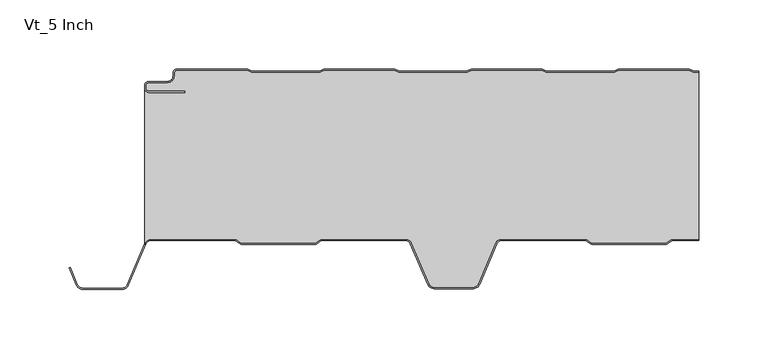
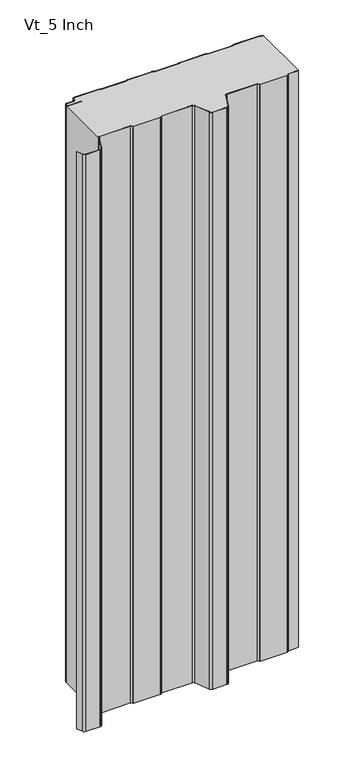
"""IFC4 building model written with IfcOpenShell, lengths in millimetres: plate geometry, AWIP_R18_CP_HR5_Vt_Roof Panel : Vt_5 Inch."""

from ifc_helpers import new_model, si_unit, point, frame, frame_2d, origin, origin_with_axes, place, context, project, spatial, polyline, circle_curve, trimmed, segment, composite_curve, outline, extrude, source, transform, mapped, element, save


def vt_5_inch_518f901f(model_context):
    return source(origin(), model_context, "Body", "SweptSolid", [
        extrude(outline(composite_curve([segment(polyline([(212.4037368, -1.5), (215.9042607, -1.5), (215.9042607, -2.3), (212.4037368, -2.3)]), True, "CONTINUOUS"), segment(trimmed(circle_curve(frame_2d((212.4037368, 1.0)), 3.3), [point((212.4037368, -2.3))], [point((211.0949824, -2.0293831))], False, "CARTESIAN"), True, "CONTINUOUS"), segment(polyline([(211.0949824, -2.0293831), (208.7048832, -0.9968123)]), True, "CONTINUOUS"), segment(trimmed(circle_curve(frame_2d((207.7530619, -3.2)), 2.4), [point((208.7048832, -0.9968123))], [point((207.7530619, -0.8))], True, "CARTESIAN"), True, "CONTINUOUS"), segment(polyline([(207.7530619, -0.8), (158.8384168, -0.8)]), True, "CONTINUOUS"), segment(trimmed(circle_curve(frame_2d((158.8384168, -3.2)), 2.4), [point((158.8384168, -0.8))], [point((157.8865954, -0.9968123))], True, "CARTESIAN"), True, "CONTINUOUS"), segment(polyline([(157.8865954, -0.9968123), (155.4964962, -2.0293831)]), True, "CONTINUOUS"), segment(trimmed(circle_curve(frame_2d((154.1877419, 1.0)), 3.3), [point((155.4964962, -2.0293831))], [point((154.1877419, -2.3))], False, "CARTESIAN"), True, "CONTINUOUS"), segment(polyline([(154.1877419, -2.3), (105.8037368, -2.3)]), True, "CONTINUOUS"), segment(trimmed(circle_curve(frame_2d((105.8037368, 1.0)), 3.3), [point((105.8037368, -2.3))], [point((104.4949824, -2.0293831))], False, "CARTESIAN"), True, "CONTINUOUS"), segment(polyline([(104.4949824, -2.0293831), (102.1048832, -0.9968123)]), True, "CONTINUOUS"), segment(trimmed(circle_curve(frame_2d((101.1530619, -3.2)), 2.4), [point((102.1048832, -0.9968123))], [point((101.1530619, -0.8))], True, "CARTESIAN"), True, "CONTINUOUS"), segment(polyline([(101.1530619, -0.8), (52.2384168, -0.8)]), True, "CONTINUOUS"), segment(trimmed(circle_curve(frame_2d((52.2384168, -3.2)), 2.4), [point((52.2384168, -0.8))], [point((51.2865954, -0.9968123))], True, "CARTESIAN"), True, "CONTINUOUS"), segment(polyline([(51.2865954, -0.9968123), (48.8964962, -2.0293831)]), True, "CONTINUOUS"), segment(trimmed(circle_curve(frame_2d((47.5877419, 1.0)), 3.3), [point((48.8964962, -2.0293831))], [point((47.5877419, -2.3))], False, "CARTESIAN"), True, "CONTINUOUS"), segment(polyline([(47.5877419, -2.3), (-0.7962632, -2.3)]), True, "CONTINUOUS"), segment(trimmed(circle_curve(frame_2d((-0.7962632, 1.0)), 3.3), [point((-0.7962632, -2.3))], [point((-2.1050176, -2.0293831))], False, "CARTESIAN"), True, "CONTINUOUS"), segment(polyline([(-2.1050176, -2.0293831), (-4.4951168, -0.9968123)]), True, "CONTINUOUS"), segment(trimmed(circle_curve(frame_2d((-5.4469381, -3.2)), 2.4), [point((-4.4951168, -0.9968123))], [point((-5.4469381, -0.8))], True, "CARTESIAN"), True, "CONTINUOUS"), segment(polyline([(-5.4469381, -0.8), (-54.3615832, -0.8)]), True, "CONTINUOUS"), segment(trimmed(circle_curve(frame_2d((-54.3615832, -3.2)), 2.4), [point((-54.3615832, -0.8))], [point((-55.3134046, -0.9968123))], True, "CARTESIAN"), True, "CONTINUOUS"), segment(polyline([(-55.3134046, -0.9968123), (-57.7035038, -2.0293831)]), True, "CONTINUOUS"), segment(trimmed(circle_curve(frame_2d((-59.0122581, 1.0)), 3.3), [point((-57.7035038, -2.0293831))], [point((-59.0122581, -2.3))], False, "CARTESIAN"), True, "CONTINUOUS"), segment(polyline([(-59.0122581, -2.3), (-107.3962632, -2.3)]), True, "CONTINUOUS"), segment(trimmed(circle_curve(frame_2d((-107.3962632, 1.0)), 3.3), [point((-107.3962632, -2.3))], [point((-108.7050176, -2.0293831))], False, "CARTESIAN"), True, "CONTINUOUS"), segment(polyline([(-108.7050176, -2.0293831), (-111.0951168, -0.9968123)]), True, "CONTINUOUS"), segment(trimmed(circle_curve(frame_2d((-112.0469381, -3.2)), 2.4), [point((-111.0951168, -0.9968123))], [point((-112.0469381, -0.8))], True, "CARTESIAN"), True, "CONTINUOUS"), segment(polyline([(-112.0469381, -0.8), (-161.8042607, -0.8)]), True, "CONTINUOUS"), segment(trimmed(circle_curve(frame_2d((-161.8042607, -3.0)), 2.2), [point((-161.8042607, -0.8))], [point((-164.0042607, -3.0))], True, "CARTESIAN"), True, "CONTINUOUS"), segment(polyline([(-164.0042607, -3.0), (-164.0042607, -5.0)]), True, "CONTINUOUS"), segment(trimmed(circle_curve(frame_2d((-168.8042607, -5.0)), 4.8), [point((-164.0042607, -5.0))], [point((-168.8042607, -9.8))], False, "CARTESIAN"), True, "CONTINUOUS"), segment(polyline([(-168.8042607, -9.8), (-182.3200708, -9.8)]), True, "CONTINUOUS"), segment(trimmed(circle_curve(frame_2d((-182.3200708, -12.0)), 2.2), [point((-182.3200708, -9.8))], [point((-184.5200708, -12.0))], True, "CARTESIAN"), True, "CONTINUOUS"), segment(polyline([(-184.5200708, -12.0), (-184.5200708, -14.0)]), True, "CONTINUOUS"), segment(trimmed(circle_curve(frame_2d((-182.3200708, -14.0)), 2.2), [point((-184.5200708, -14.0))], [point((-182.3200708, -16.2))], True, "CARTESIAN"), True, "CONTINUOUS"), segment(polyline([(-182.3200708, -16.2), (-156.3790289, -16.2), (-156.3790289, -17.0), (-182.3200708, -17.0)]), True, "CONTINUOUS"), segment(trimmed(circle_curve(frame_2d((-182.3200708, -14.0)), 3.0), [point((-182.3200708, -17.0))], [point((-185.3200708, -14.0))], False, "CARTESIAN"), True, "CONTINUOUS"), segment(polyline([(-185.3200708, -14.0), (-185.3200708, -12.0)]), True, "CONTINUOUS"), segment(trimmed(circle_curve(frame_2d((-182.3200708, -12.0)), 3.0), [point((-185.3200708, -12.0))], [point((-182.3200708, -9.0))], False, "CARTESIAN"), True, "CONTINUOUS"), segment(polyline([(-182.3200708, -9.0), (-168.8042607, -9.0)]), True, "CONTINUOUS"), segment(trimmed(circle_curve(frame_2d((-168.8042607, -5.0)), 4.0), [point((-168.8042607, -9.0))], [point((-164.8042607, -5.0))], True, "CARTESIAN"), True, "CONTINUOUS"), segment(polyline([(-164.8042607, -5.0), (-164.8042607, -3.0)]), True, "CONTINUOUS"), segment(trimmed(circle_curve(frame_2d((-161.8042607, -3.0)), 3.0), [point((-164.8042607, -3.0))], [point((-161.8042607, 0.0))], False, "CARTESIAN"), True, "CONTINUOUS"), segment(polyline([(-161.8042607, 0.0), (-112.0469381, 0.0)]), True, "CONTINUOUS"), segment(trimmed(circle_curve(frame_2d((-112.0469381, -3.2)), 3.2), [point((-112.0469381, 0.0))], [point((-110.777843, -0.2624164))], False, "CARTESIAN"), True, "CONTINUOUS"), segment(polyline([(-110.777843, -0.2624164), (-108.3877438, -1.2949872)]), True, "CONTINUOUS"), segment(trimmed(circle_curve(frame_2d((-107.3962632, 1.0)), 2.5), [point((-108.3877438, -1.2949872))], [point((-107.3962632, -1.5))], True, "CARTESIAN"), True, "CONTINUOUS"), segment(polyline([(-107.3962632, -1.5), (-59.0122581, -1.5)]), True, "CONTINUOUS"), segment(trimmed(circle_curve(frame_2d((-59.0122581, 1.0)), 2.5), [point((-59.0122581, -1.5))], [point((-58.0207775, -1.2949872))], True, "CARTESIAN"), True, "CONTINUOUS"), segment(polyline([(-58.0207775, -1.2949872), (-55.6306783, -0.2624164)]), True, "CONTINUOUS"), segment(trimmed(circle_curve(frame_2d((-54.3615832, -3.2)), 3.2), [point((-55.6306783, -0.2624164))], [point((-54.3615832, 0.0))], False, "CARTESIAN"), True, "CONTINUOUS"), segment(polyline([(-54.3615832, 0.0), (-5.4469381, 0.0)]), True, "CONTINUOUS"), segment(trimmed(circle_curve(frame_2d((-5.4469381, -3.2)), 3.2), [point((-5.4469381, 0.0))], [point((-4.177843, -0.2624164))], False, "CARTESIAN"), True, "CONTINUOUS"), segment(polyline([(-4.177843, -0.2624164), (-1.7877438, -1.2949872)]), True, "CONTINUOUS"), segment(trimmed(circle_curve(frame_2d((-0.7962632, 1.0)), 2.5), [point((-1.7877438, -1.2949872))], [point((-0.7962632, -1.5))], True, "CARTESIAN"), True, "CONTINUOUS"), segment(polyline([(-0.7962632, -1.5), (47.5877419, -1.5)]), True, "CONTINUOUS"), segment(trimmed(circle_curve(frame_2d((47.5877419, 1.0)), 2.5), [point((47.5877419, -1.5))], [point((48.5792225, -1.2949872))], True, "CARTESIAN"), True, "CONTINUOUS"), segment(polyline([(48.5792225, -1.2949872), (50.9693217, -0.2624164)]), True, "CONTINUOUS"), segment(trimmed(circle_curve(frame_2d((52.2384168, -3.2)), 3.2), [point((50.9693217, -0.2624164))], [point((52.2384168, 0.0))], False, "CARTESIAN"), True, "CONTINUOUS"), segment(polyline([(52.2384168, 0.0), (101.1530619, 0.0)]), True, "CONTINUOUS"), segment(trimmed(circle_curve(frame_2d((101.1530619, -3.2)), 3.2), [point((101.1530619, 0.0))], [point((102.422157, -0.2624164))], False, "CARTESIAN"), True, "CONTINUOUS"), segment(polyline([(102.422157, -0.2624164), (104.8122562, -1.2949872)]), True, "CONTINUOUS"), segment(trimmed(circle_curve(frame_2d((105.8037368, 1.0)), 2.5), [point((104.8122562, -1.2949872))], [point((105.8037368, -1.5))], True, "CARTESIAN"), True, "CONTINUOUS"), segment(polyline([(105.8037368, -1.5), (154.1877419, -1.5)]), True, "CONTINUOUS"), segment(trimmed(circle_curve(frame_2d((154.1877419, 1.0)), 2.5), [point((154.1877419, -1.5))], [point((155.1792225, -1.2949872))], True, "CARTESIAN"), True, "CONTINUOUS"), segment(polyline([(155.1792225, -1.2949872), (157.5693217, -0.2624164)]), True, "CONTINUOUS"), segment(trimmed(circle_curve(frame_2d((158.8384168, -3.2)), 3.2), [point((157.5693217, -0.2624164))], [point((158.8384168, 0.0))], False, "CARTESIAN"), True, "CONTINUOUS"), segment(polyline([(158.8384168, 0.0), (207.7530619, 0.0)]), True, "CONTINUOUS"), segment(trimmed(circle_curve(frame_2d((207.7530619, -3.2)), 3.2), [point((207.7530619, 0.0))], [point((209.022157, -0.2624164))], False, "CARTESIAN"), True, "CONTINUOUS"), segment(polyline([(209.022157, -0.2624164), (211.4122562, -1.2949872)]), True, "CONTINUOUS"), segment(trimmed(circle_curve(frame_2d((212.4037368, 1.0)), 2.5), [point((211.4122562, -1.2949872))], [point((212.4037368, -1.5))], True, "CARTESIAN"), True, "CONTINUOUS")], self_intersect=False)), origin_with_axes(), (0.0, 0.0, 1.0), 1219.2),
        extrude(outline(composite_curve([segment(trimmed(circle_curve(frame_2d((-154.1851335, 52.1967135)), 4.2), [point((-158.3851335, 52.1967135))], [point((-155.8261778, 56.0628451))], False, "CARTESIAN"), True, "CONTINUOUS"), segment(polyline([(-155.8261778, 56.0628451), (-126.3404017, 68.5785758)]), True, "CONTINUOUS"), segment(trimmed(circle_curve(frame_2d((-128.2158809, 72.9970122)), 4.8000002), [point((-126.3404017, 68.5785758))], [point((-123.4158807, 72.9970122))], True, "CARTESIAN"), True, "CONTINUOUS"), segment(polyline([(-123.4158807, 72.9970122), (-123.4158807, 133.8457671)]), True, "CONTINUOUS"), segment(trimmed(circle_curve(frame_2d((-124.7158807, 133.8457671)), 1.3), [point((-123.4158807, 133.8457671))], [point((-123.6621798, 134.607157))], True, "CARTESIAN"), True, "CONTINUOUS"), segment(polyline([(-123.6621798, 134.607157), (-126.2, 138.119291), (-126.2, 192.3221722), (-123.6621799, 195.8343063)]), True, "CONTINUOUS"), segment(trimmed(circle_curve(frame_2d((-124.7158814, 196.5956965)), 1.3000007), [point((-123.6621799, 195.8343063))], [point((-123.4158807, 196.5956965))], True, "CARTESIAN"), True, "CONTINUOUS"), segment(polyline([(-123.4158807, 196.5956965), (-123.4158807, 215.9042607), (-2.3, 215.9042607), (-2.3, 212.3867902)]), True, "CONTINUOUS"), segment(trimmed(circle_curve(frame_2d((1.0, 212.3867902)), 3.3), [point((-2.3, 212.3867902))], [point((-2.0293831, 211.0780359))], True, "CARTESIAN"), True, "CONTINUOUS"), segment(polyline([(-2.0293831, 211.0780359), (-0.9968123, 208.6879367)]), True, "CONTINUOUS"), segment(trimmed(circle_curve(frame_2d((-3.2, 207.7361153)), 2.4), [point((-0.9968123, 208.6879367))], [point((-0.8, 207.7361153))], False, "CARTESIAN"), True, "CONTINUOUS"), segment(polyline([(-0.8, 207.7361153), (-0.8, 158.8214702)]), True, "CONTINUOUS"), segment(trimmed(circle_curve(frame_2d((-3.2, 158.8214702)), 2.4), [point((-0.8, 158.8214702))], [point((-0.9968123, 157.8696489))], False, "CARTESIAN"), True, "CONTINUOUS"), segment(polyline([(-0.9968123, 157.8696489), (-2.0293831, 155.4795497)]), True, "CONTINUOUS"), segment(trimmed(circle_curve(frame_2d((1.0, 154.1707953)), 3.3), [point((-2.0293831, 155.4795497))], [point((-2.3, 154.1707953))], True, "CARTESIAN"), True, "CONTINUOUS"), segment(polyline([(-2.3, 154.1707953), (-2.3, 105.7867902)]), True, "CONTINUOUS"), segment(trimmed(circle_curve(frame_2d((1.0, 105.7867902)), 3.3), [point((-2.3, 105.7867902))], [point((-2.0293831, 104.4780359))], True, "CARTESIAN"), True, "CONTINUOUS"), segment(polyline([(-2.0293831, 104.4780359), (-0.9968123, 102.0879367)]), True, "CONTINUOUS"), segment(trimmed(circle_curve(frame_2d((-3.2, 101.1361153)), 2.4), [point((-0.9968123, 102.0879367))], [point((-0.8, 101.1361153))], False, "CARTESIAN"), True, "CONTINUOUS"), segment(polyline([(-0.8, 101.1361153), (-0.8, 52.2214702)]), True, "CONTINUOUS"), segment(trimmed(circle_curve(frame_2d((-3.2, 52.2214702)), 2.4), [point((-0.8, 52.2214702))], [point((-0.9968123, 51.2696489))], False, "CARTESIAN"), True, "CONTINUOUS"), segment(polyline([(-0.9968123, 51.2696489), (-2.0293831, 48.8795497)]), True, "CONTINUOUS"), segment(trimmed(circle_curve(frame_2d((1.0, 47.5707953)), 3.3), [point((-2.0293831, 48.8795497))], [point((-2.3, 47.5707953))], True, "CARTESIAN"), True, "CONTINUOUS"), segment(polyline([(-2.3, 47.5707953), (-2.3, -0.8132098)]), True, "CONTINUOUS"), segment(trimmed(circle_curve(frame_2d((1.0, -0.8132098)), 3.3), [point((-2.3, -0.8132098))], [point((-2.0293831, -2.1219641))], True, "CARTESIAN"), True, "CONTINUOUS"), segment(polyline([(-2.0293831, -2.1219641), (-0.9968123, -4.5120633)]), True, "CONTINUOUS"), segment(trimmed(circle_curve(frame_2d((-3.2, -5.4638847)), 2.4), [point((-0.9968123, -4.5120633))], [point((-0.8, -5.4638847))], False, "CARTESIAN"), True, "CONTINUOUS"), segment(polyline([(-0.8, -5.4638847), (-0.8, -54.3785298)]), True, "CONTINUOUS"), segment(trimmed(circle_curve(frame_2d((-3.2, -54.3785298)), 2.4), [point((-0.8, -54.3785298))], [point((-0.9968123, -55.3303511))], False, "CARTESIAN"), True, "CONTINUOUS"), segment(polyline([(-0.9968123, -55.3303511), (-2.0293831, -57.7204503)]), True, "CONTINUOUS"), segment(trimmed(circle_curve(frame_2d((1.0, -59.0292047)), 3.3), [point((-2.0293831, -57.7204503))], [point((-2.3, -59.0292047))], True, "CARTESIAN"), True, "CONTINUOUS"), segment(polyline([(-2.3, -59.0292047), (-2.3, -107.4132098)]), True, "CONTINUOUS"), segment(trimmed(circle_curve(frame_2d((1.0, -107.4132098)), 3.3), [point((-2.3, -107.4132098))], [point((-2.0293831, -108.7219641))], True, "CARTESIAN"), True, "CONTINUOUS"), segment(polyline([(-2.0293831, -108.7219641), (-0.9968123, -111.1120633)]), True, "CONTINUOUS"), segment(trimmed(circle_curve(frame_2d((-3.2, -112.0638847)), 2.4), [point((-0.9968123, -111.1120633))], [point((-0.8, -112.0638847))], False, "CARTESIAN"), True, "CONTINUOUS"), segment(polyline([(-0.8, -112.0638847), (-0.8, -161.8212072)]), True, "CONTINUOUS"), segment(trimmed(circle_curve(frame_2d((-3.0, -161.8212072)), 2.2), [point((-0.8, -161.8212072))], [point((-3.0, -164.0212072))], False, "CARTESIAN"), True, "CONTINUOUS"), segment(polyline([(-3.0, -164.0212072), (-5.0, -164.0212072)]), True, "CONTINUOUS"), segment(trimmed(circle_curve(frame_2d((-5.0, -168.8212072)), 4.8), [point((-5.0, -164.0212072))], [point((-9.8, -168.8212072))], True, "CARTESIAN"), True, "CONTINUOUS"), segment(polyline([(-9.8, -168.8212072), (-9.8, -182.3370174)]), True, "CONTINUOUS"), segment(trimmed(circle_curve(frame_2d((-12.0, -182.3370174)), 2.2), [point((-9.8, -182.3370174))], [point((-12.0, -184.5370174))], False, "CARTESIAN"), True, "CONTINUOUS"), segment(polyline([(-12.0, -184.5370174), (-14.0, -184.5370174)]), True, "CONTINUOUS"), segment(trimmed(circle_curve(frame_2d((-14.0, -182.3370174)), 2.2), [point((-14.0, -184.5370174))], [point((-16.2, -182.3370174))], False, "CARTESIAN"), True, "CONTINUOUS"), segment(polyline([(-16.2, -182.3370174), (-16.2, -156.3959754), (-17.0, -156.3959754), (-17.0, -182.3370174)]), True, "CONTINUOUS"), segment(trimmed(circle_curve(frame_2d((-14.0, -182.3370174)), 3.0), [point((-17.0, -182.3370174))], [point((-14.0, -185.3370174))], True, "CARTESIAN"), True, "CONTINUOUS"), segment(polyline([(-14.0, -185.3370174), (-127.020955, -185.3370174)]), True, "CONTINUOUS"), segment(trimmed(circle_curve(frame_2d((-128.2158805, -180.6881301)), 4.8), [point((-127.020955, -185.3370174))], [point((-123.4158805, -180.6881301))], True, "CARTESIAN"), True, "CONTINUOUS"), segment(polyline([(-123.4158805, -180.6881301), (-123.4158805, -119.9042132)]), True, "CONTINUOUS"), segment(trimmed(circle_curve(frame_2d((-124.7158805, -119.9042132)), 1.3), [point((-123.4158805, -119.9042132))], [point((-123.6621796, -119.1428234))], True, "CARTESIAN"), True, "CONTINUOUS"), segment(polyline([(-123.6621796, -119.1428234), (-126.2, -115.6306887), (-126.2, -61.4278085), (-123.6621797, -57.915674)]), True, "CONTINUOUS"), segment(trimmed(circle_curve(frame_2d((-124.7158805, -57.1542841)), 1.3), [point((-123.6621797, -57.915674))], [point((-123.4158805, -57.1542841))], True, "CARTESIAN"), True, "CONTINUOUS"), segment(polyline([(-123.4158805, -57.1542841), (-123.4158805, 3.6944665)]), True, "CONTINUOUS"), segment(trimmed(circle_curve(frame_2d((-128.2158806, 3.6944665)), 4.8000001), [point((-123.4158805, 3.6944665))], [point((-126.3404015, 8.1129027))], True, "CARTESIAN"), True, "CONTINUOUS"), segment(polyline([(-126.3404015, 8.1129027), (-155.8261778, 20.6286335)]), True, "CONTINUOUS"), segment(trimmed(circle_curve(frame_2d((-154.1851335, 24.4947652)), 4.2), [point((-155.8261778, 20.6286335))], [point((-158.3851335, 24.4947652))], False, "CARTESIAN"), True, "CONTINUOUS"), segment(polyline([(-158.3851335, 24.4947652), (-158.3851335, 52.1967135)]), True, "CONTINUOUS")], self_intersect=False)), frame((0.0, 0.0, 1219.2), z_axis=(0.0, 0.0, -1.0), x_axis=(0.0, 1.0, 0.0)), (0.0, 0.0, 1.0), 1219.2),
        extrude(outline(composite_curve([segment(polyline([(196.5956965, -123.4158806), (215.9042607, -123.4158806), (215.9042607, -124.2158806), (196.4339534, -124.2158806), (192.9742585, -126.7158087)]), True, "CONTINUOUS"), segment(trimmed(circle_curve(frame_2d((192.0957318, -125.4999999)), 1.5), [point((192.9742585, -126.7158087))], [point((192.0957318, -126.9999999))], False, "CARTESIAN"), True, "CONTINUOUS"), segment(polyline([(192.0957318, -126.9999999), (138.3457318, -127.0000002)]), True, "CONTINUOUS"), segment(trimmed(circle_curve(frame_2d((138.3457318, -125.5000001)), 1.5000001), [point((138.3457318, -127.0000002))], [point((137.4672049, -126.7158088))], False, "CARTESIAN"), True, "CONTINUOUS"), segment(polyline([(137.4672049, -126.7158088), (134.00751, -124.2158803), (73.3496366, -124.2158803)]), True, "CONTINUOUS"), segment(trimmed(circle_curve(frame_2d((73.3496366, -128.2158808)), 4.0000005), [point((73.3496366, -124.2158803))], [point((69.6676059, -126.6529814))], True, "CARTESIAN"), True, "CONTINUOUS"), segment(polyline([(69.6676059, -126.6529814), (57.1388245, -156.1695044)]), True, "CONTINUOUS"), segment(trimmed(circle_curve(frame_2d((52.5362869, -154.2158803)), 5.0), [point((57.1388245, -156.1695044))], [point((52.5362869, -159.2158803))], False, "CARTESIAN"), True, "CONTINUOUS"), segment(polyline([(52.5362869, -159.2158803), (24.1551918, -159.2158803)]), True, "CONTINUOUS"), segment(trimmed(circle_curve(frame_2d((24.1551918, -154.2158803)), 5.0), [point((24.1551918, -159.2158803))], [point((19.5526541, -156.1695044))], False, "CARTESIAN"), True, "CONTINUOUS"), segment(polyline([(19.5526541, -156.1695044), (7.0238723, -126.6529813)]), True, "CONTINUOUS"), segment(trimmed(circle_curve(frame_2d((3.3418421, -128.2158806)), 4.0000001), [point((7.0238723, -126.6529813))], [point((3.3418421, -124.2158805))], True, "CARTESIAN"), True, "CONTINUOUS"), segment(polyline([(3.3418421, -124.2158805), (-57.3160273, -124.2158805), (-60.7757221, -126.7158086)]), True, "CONTINUOUS"), segment(trimmed(circle_curve(frame_2d((-61.6542488, -125.4999999)), 1.5), [point((-60.7757221, -126.7158086))], [point((-61.6552202, -126.9999996))], False, "CARTESIAN"), True, "CONTINUOUS"), segment(polyline([(-61.6552202, -126.9999996), (-115.4042488, -126.9999996)]), True, "CONTINUOUS"), segment(trimmed(circle_curve(frame_2d((-115.4042488, -125.4999996)), 1.5), [point((-115.4042488, -126.9999996))], [point((-116.2827756, -126.7158083))], False, "CARTESIAN"), True, "CONTINUOUS"), segment(polyline([(-116.2827756, -126.7158083), (-119.7424699, -124.2158804), (-180.6881301, -124.2158804)]), True, "CONTINUOUS"), segment(trimmed(circle_curve(frame_2d((-180.6881301, -128.2158804)), 4.0), [point((-180.6881301, -124.2158804))], [point((-184.3701602, -126.6529811))], True, "CARTESIAN"), True, "CONTINUOUS"), segment(polyline([(-184.3701602, -126.6529811), (-197.1111755, -156.6695045)]), True, "CONTINUOUS"), segment(trimmed(circle_curve(frame_2d((-201.7137131, -154.7158804)), 5.0), [point((-197.1111755, -156.6695045))], [point((-201.7137131, -159.7158804))], False, "CARTESIAN"), True, "CONTINUOUS"), segment(polyline([(-201.7137131, -159.7158804), (-230.0948052, -159.7158804)]), True, "CONTINUOUS"), segment(trimmed(circle_curve(frame_2d((-230.0948052, -154.7158804)), 5.0), [point((-230.0948052, -159.7158804))], [point((-234.6973445, -156.6695007))], False, "CARTESIAN"), True, "CONTINUOUS"), segment(polyline([(-234.6973445, -156.6695007), (-240.046569, -144.0672483), (-239.3095274, -143.7561658), (-233.9609382, -156.3569214)]), True, "CONTINUOUS"), segment(trimmed(circle_curve(frame_2d((-230.0948052, -154.7158804)), 4.2), [point((-233.9609382, -156.3569214))], [point((-230.0948052, -158.9158804))], True, "CARTESIAN"), True, "CONTINUOUS"), segment(polyline([(-230.0948052, -158.9158804), (-201.7137131, -158.9158804)]), True, "CONTINUOUS"), segment(trimmed(circle_curve(frame_2d((-201.7137131, -154.7158804)), 4.2), [point((-201.7137131, -158.9158804))], [point((-197.8475815, -156.3569246))], True, "CARTESIAN"), True, "CONTINUOUS"), segment(polyline([(-197.8475815, -156.3569246), (-185.1065662, -126.3404013)]), True, "CONTINUOUS"), segment(trimmed(circle_curve(frame_2d((-180.6881301, -128.2158804)), 4.8), [point((-185.1065662, -126.3404013))], [point((-180.6881301, -123.4158804))], False, "CARTESIAN"), True, "CONTINUOUS"), segment(polyline([(-180.6881301, -123.4158804), (-119.9042132, -123.4158804)]), True, "CONTINUOUS"), segment(trimmed(circle_curve(frame_2d((-119.9042132, -124.7158804)), 1.3), [point((-119.9042132, -123.4158804))], [point((-119.1428234, -123.6621795))], False, "CARTESIAN"), True, "CONTINUOUS"), segment(polyline([(-119.1428234, -123.6621795), (-115.6306887, -126.1999999), (-61.4278085, -126.1999999), (-57.915674, -123.6621796)]), True, "CONTINUOUS"), segment(trimmed(circle_curve(frame_2d((-57.1542841, -124.7158805)), 1.3), [point((-57.915674, -123.6621796))], [point((-57.1542841, -123.4158805))], False, "CARTESIAN"), True, "CONTINUOUS"), segment(polyline([(-57.1542841, -123.4158805), (3.3418421, -123.4158805)]), True, "CONTINUOUS"), segment(trimmed(circle_curve(frame_2d((3.3418421, -128.2158806)), 4.8000001), [point((3.3418421, -123.4158805))], [point((7.7602783, -126.3404014))], False, "CARTESIAN"), True, "CONTINUOUS"), segment(polyline([(7.7602783, -126.3404014), (20.2890602, -155.8569246)]), True, "CONTINUOUS"), segment(trimmed(circle_curve(frame_2d((24.1551918, -154.2158803)), 4.2), [point((20.2890602, -155.8569246))], [point((24.1551918, -158.4158803))], True, "CARTESIAN"), True, "CONTINUOUS"), segment(polyline([(24.1551918, -158.4158803), (52.5362869, -158.4158803)]), True, "CONTINUOUS"), segment(trimmed(circle_curve(frame_2d((52.5362869, -154.2158803)), 4.2), [point((52.5362869, -158.4158803))], [point((56.4024185, -155.8569246))], True, "CARTESIAN"), True, "CONTINUOUS"), segment(polyline([(56.4024185, -155.8569246), (68.9312002, -126.3404017)]), True, "CONTINUOUS"), segment(trimmed(circle_curve(frame_2d((73.3496366, -128.2158808)), 4.8000002), [point((68.9312002, -126.3404017))], [point((73.3496366, -123.4158806))], False, "CARTESIAN"), True, "CONTINUOUS"), segment(polyline([(73.3496366, -123.4158806), (133.8457671, -123.4158806)]), True, "CONTINUOUS"), segment(trimmed(circle_curve(frame_2d((133.8457671, -124.7158806)), 1.3), [point((133.8457671, -123.4158806))], [point((134.607157, -123.6621798))], False, "CARTESIAN"), True, "CONTINUOUS"), segment(polyline([(134.607157, -123.6621798), (138.119291, -126.1999999), (192.3221722, -126.1999999), (195.8343063, -123.6621799)]), True, "CONTINUOUS"), segment(trimmed(circle_curve(frame_2d((196.5956965, -124.7158813)), 1.3000007), [point((195.8343063, -123.6621799))], [point((196.5956965, -123.4158806))], False, "CARTESIAN"), True, "CONTINUOUS")], self_intersect=False)), origin_with_axes(), (0.0, 0.0, 1.0), 1219.2),
    ])


if __name__ == "__main__":
    model = new_model("IFC4")
    model_context = context("Model", 3, world=origin())
    ifc_project = project(units=[si_unit("LENGTHUNIT", "METRE", prefix="MILLI")], contexts=[model_context])
    site = spatial("IfcSite", under=ifc_project)
    building = spatial("IfcBuilding", under=site)
    placement = place(None, origin())
    vt_5_inch_shape = vt_5_inch_518f901f(model_context)
    element("IfcPlate", 1, ObjectType="AWIP_R18_CP_HR5_Vt_Roof Panel : Vt_5 Inch", at=placement, inside=building, context=model_context, shape_type="MappedRepresentation", body=[
        mapped(vt_5_inch_shape, transform((0.0, 0.0, 0.0), x_axis=(1.0, 0.0, 0.0), y_axis=(0.0, 1.0, 0.0), z_axis=(0.0, 0.0, 1.0))),
    ])
    save(model, "model.ifc")
